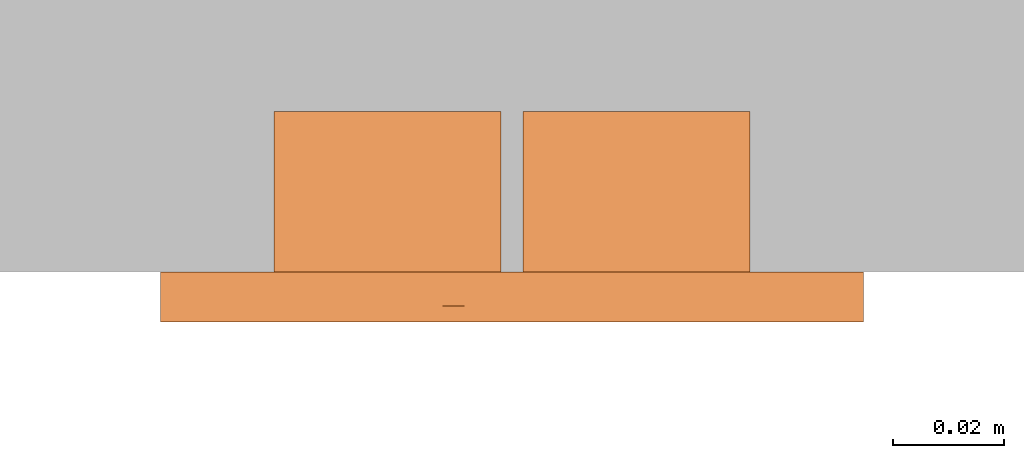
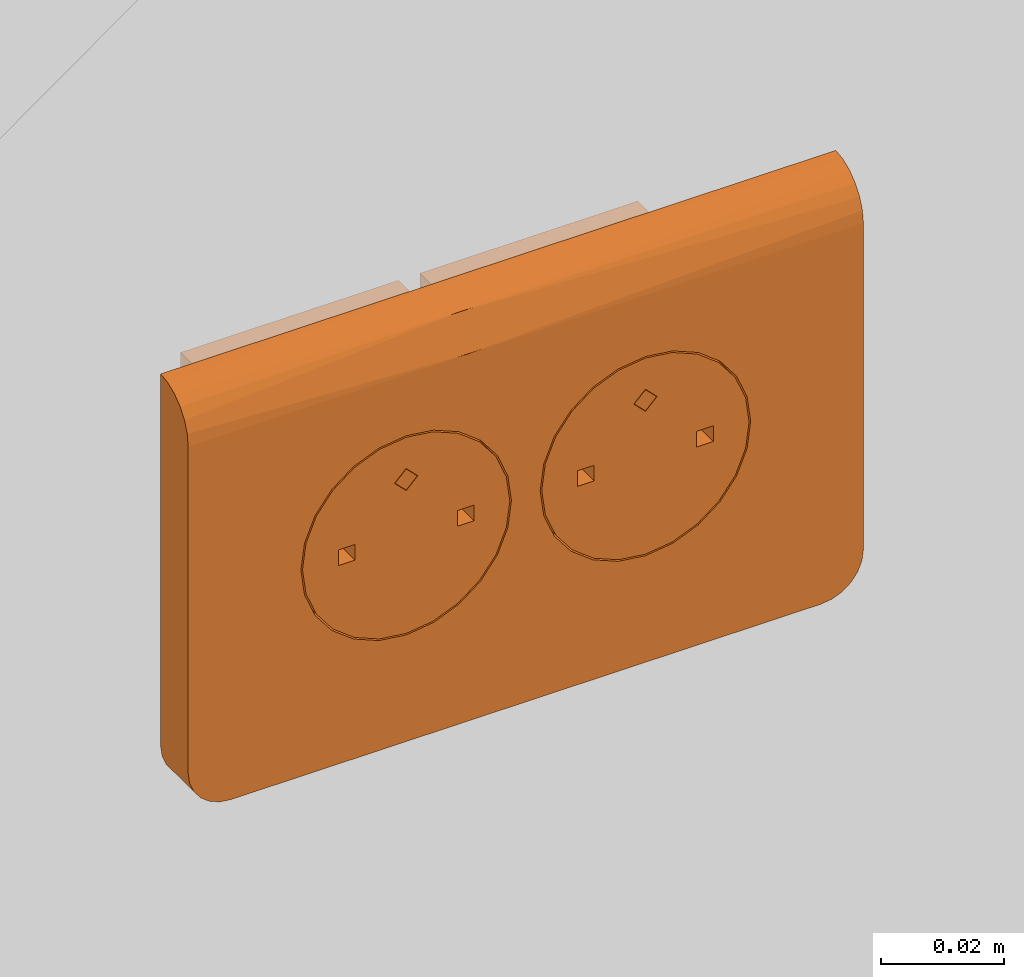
# One storey, part 112 of 197: 1 proxy.
"""IFC2X3 building model written with IfcOpenShell, lengths in metres."""

from ifc_helpers import new_model, entity, si_unit, converted_unit, direction, frame, origin, place, context, subcontext, project, spatial, faceted_brep, source, transform, mapped, material, material_list, type_object, type_shapes, element, save


model = new_model("IFC2X3")

# Units and contexts
model_context = context("Model", 3, precision=1e-05, world=origin(), true_north=direction((6.123031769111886e-17, 1.0)))
body_context = subcontext(model_context, "Body", "Model", "MODEL_VIEW")
ifc_project = project(units=[si_unit("LENGTHUNIT", "METRE"), converted_unit("PLANEANGLEUNIT", "DEGREE", entity("IfcPlaneAngleMeasure", 0.017453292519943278), si_unit("PLANEANGLEUNIT", "RADIAN"), dimensions=[0, 0, 0, 0, 0, 0, 0]), si_unit("AREAUNIT", "SQUARE_METRE")], contexts=[model_context])

# Site, building, storey
site_placement = place(None, origin())
site = spatial("IfcSite", under=ifc_project, at=site_placement, Name="Default", CompositionType="ELEMENT")
building_placement = place(site_placement, origin())
building = spatial("IfcBuilding", under=site, at=building_placement, CompositionType="ELEMENT")
storey_placement = place(building_placement, origin())
storey = spatial("IfcBuildingStorey", under=building, at=storey_placement, Name="Niveau 0", CompositionType="ELEMENT", Elevation=0.0)

# Proxy
ifc_material_1 = material(Name="BETCE-ENJOLIVEUR PC-BLANC")
ifc_material_2 = material(Name="<Unnamed>")
ifc_material_3 = material(Name="BETCE-PCN-BLANC")
ifc_material_list = material_list([ifc_material_1, ifc_material_2, ifc_material_3])
building_element_proxy_type = type_object("IfcBuildingElementProxyType", Name="Prise double encastré horizontale:PC20A", PredefinedType="NOTDEFINED", material=ifc_material_list)
shared_shape = source(origin(), body_context, "Body", "Brep", [
    faceted_brep([(0.06353437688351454, -0.008993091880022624, -0.032999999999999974), (0.06353437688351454, -0.008993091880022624, 0.031999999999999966), (0.04503437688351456, -0.008993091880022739, -0.022500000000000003), (0.055534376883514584, -0.008993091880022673, -0.04099999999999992), (0.057604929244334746, -0.00899309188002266, -0.04072740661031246), (0.05953437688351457, -0.008993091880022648, -0.03992820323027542), (0.06119123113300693, -0.008993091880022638, -0.03865685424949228), (0.06326178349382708, -0.008993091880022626, -0.03507055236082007), (0.04503437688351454, -0.008993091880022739, 0.0225), (-0.04496562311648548, -0.008993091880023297, 0.022499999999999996), (-0.011090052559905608, -0.008993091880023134, 0.03199999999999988), (-0.06346562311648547, -0.008993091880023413, 0.031999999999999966), (-0.04496562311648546, -0.008993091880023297, -0.022500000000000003), (-0.06346562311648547, -0.008993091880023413, -0.03299999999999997), (-0.055465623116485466, -0.008993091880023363, -0.04099999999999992), (-0.05753617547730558, -0.008993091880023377, -0.040727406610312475), (-0.059465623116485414, -0.00899309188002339, -0.039928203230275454), (-0.06112247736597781, -0.008993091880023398, -0.03865685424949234), (-0.063193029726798, -0.008993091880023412, -0.03507055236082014), (-0.06239382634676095, -0.008993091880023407, -0.036999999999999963), (0.06246258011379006, -0.008993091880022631, -0.036999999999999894), (-0.06346562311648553, 0.0, -0.03299999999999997), (-0.06346562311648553, 0.0, 0.04099999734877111), (-0.04496562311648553, 0.0, 0.022499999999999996), (-0.044965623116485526, 0.0, -0.022500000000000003), (-0.05546562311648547, 0.0, -0.04099999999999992), (-0.057536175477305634, 0.0, -0.040727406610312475), (-0.05946562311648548, 0.0, -0.039928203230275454), (-0.06319302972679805, 0.0, -0.03507055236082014), (0.011158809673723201, 0.0, 0.04099999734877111), (0.06353437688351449, 0.0, 0.04099999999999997), (0.045034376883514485, 0.0, 0.022499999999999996), (0.06353437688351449, 0.0, -0.03299999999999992), (0.045034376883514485, 0.0, -0.022500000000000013), (0.05553437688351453, 0.0, -0.04099999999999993), (0.05760492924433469, 0.0, -0.04072740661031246), (0.05953437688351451, 0.0, -0.03992820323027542), (0.06326178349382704, 0.0, -0.03507055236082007), (0.061191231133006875, 0.0, -0.03865685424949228), (0.062462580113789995, 0.0, -0.036999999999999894), (-0.06112247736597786, 0.0, -0.03865685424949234), (-0.06239382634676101, 0.0, -0.036999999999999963), (0.0635343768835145, -0.0023280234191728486, 0.040691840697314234), (0.06353437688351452, -0.004497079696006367, 0.039791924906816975), (0.06353437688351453, -0.0063594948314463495, 0.03836151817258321), (0.06353437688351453, -0.0077884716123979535, 0.036498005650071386), (0.06353437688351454, -0.008686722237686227, 0.03432825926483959), (-0.0634656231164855, -0.002328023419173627, 0.040691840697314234), (-0.06346562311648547, -0.008686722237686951, 0.03432825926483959), (-0.06346562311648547, -0.0077884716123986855, 0.03649800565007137), (-0.06346562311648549, -0.006359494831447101, 0.038361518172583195), (-0.0634656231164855, -0.004497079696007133, 0.039791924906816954), (-0.010842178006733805, -0.006115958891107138, 0.03859624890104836)], [[[0, 1, 2]], [[3, 0, 2]], [[0, 3, 4]], [[0, 4, 5]], [[5, 6, 0]], [[7, 0, 6]], [[2, 1, 8]], [[1, 9, 8]], [[9, 1, 10]], [[9, 10, 11]], [[12, 9, 11]], [[13, 12, 11]], [[14, 12, 13]], [[14, 13, 15]], [[16, 15, 13]], [[13, 17, 16]], [[17, 13, 18]], [[17, 18, 19]], [[12, 14, 3]], [[2, 12, 3]], [[20, 7, 6]], [[21, 22, 23]], [[24, 21, 23]], [[25, 21, 24]], [[21, 25, 26]], [[21, 26, 27]], [[28, 21, 27]], [[23, 22, 29]], [[23, 29, 30]], [[31, 23, 30]], [[32, 31, 30]], [[33, 31, 32]], [[34, 33, 32]], [[34, 32, 35]], [[36, 35, 32]], [[36, 32, 37]], [[37, 38, 36]], [[38, 37, 39]], [[33, 34, 25]], [[24, 33, 25]], [[27, 40, 28]], [[41, 28, 40]], [[1, 0, 32, 30, 42, 43, 44, 45, 46]], [[37, 32, 0, 7]], [[39, 37, 7, 20]], [[38, 39, 20, 6]], [[36, 38, 6, 5]], [[35, 36, 5, 4]], [[34, 35, 4, 3]], [[25, 34, 3, 14]], [[26, 25, 14, 15]], [[27, 26, 15, 16]], [[40, 27, 16, 17]], [[41, 40, 17, 19]], [[28, 41, 19, 18]], [[21, 28, 18, 13]], [[47, 22, 21, 13, 11, 48, 49, 50, 51]], [[24, 23, 9, 12]], [[33, 24, 12, 2]], [[31, 33, 2, 8]], [[23, 31, 8, 9]], [[52, 10, 45]], [[48, 11, 10]], [[1, 46, 10]], [[44, 52, 45]], [[46, 45, 10]], [[51, 52, 47]], [[49, 48, 10]], [[29, 52, 43]], [[49, 52, 50]], [[42, 30, 29]], [[29, 22, 47]], [[49, 10, 52]], [[29, 43, 42]], [[44, 43, 52]], [[52, 51, 50]], [[52, 29, 47]]]),
    faceted_brep([(0.022534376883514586, -0.00899309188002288, 0.013200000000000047), (0.020434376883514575, -0.008993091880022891, 0.011100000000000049), (0.022534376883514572, -0.00899309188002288, 0.00900000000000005), (0.024634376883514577, -0.008993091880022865, 0.011100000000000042), (0.02463437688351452, 0.0, 0.011100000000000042), (0.022534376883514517, 0.0, 0.00900000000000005), (0.02043437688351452, 0.0, 0.011100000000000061), (0.02253437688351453, 0.0, 0.013200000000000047)], [[[0, 1, 2, 3]], [[4, 5, 6, 7]], [[3, 4, 7, 0]], [[7, 6, 1, 0]], [[1, 6, 5, 2]], [[5, 4, 3, 2]]]),
    faceted_brep([(0.002034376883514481, 6.908119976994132e-06, 0.0205), (0.002034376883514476, 6.908119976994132e-06, -0.020500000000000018), (0.04303437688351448, 6.908119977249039e-06, -0.020500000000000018), (0.04303437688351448, 6.908119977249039e-06, 0.0205), (0.0020343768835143, 0.029006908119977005, 0.0205), (0.0430343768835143, 0.02900690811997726, 0.0205), (0.043034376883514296, 0.02900690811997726, -0.020500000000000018), (0.0020343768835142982, 0.029006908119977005, -0.020500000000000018)], [[[0, 1, 2, 3]], [[4, 5, 6, 7]], [[1, 0, 4, 7]], [[2, 1, 7, 6]], [[3, 2, 6, 5]], [[0, 3, 5, 4]]]),
    faceted_brep([(3.437688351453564e-05, -0.00899309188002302, 0.022499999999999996), (0.012634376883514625, -0.00899309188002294, 0.017147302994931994), (0.017409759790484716, -0.00899309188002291, 0.01912533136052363), (0.00853366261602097, -0.008993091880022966, 0.014000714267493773), (0.022534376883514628, -0.00899309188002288, 0.01980000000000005), (0.0053870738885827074, -0.008993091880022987, 0.009900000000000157), (0.0034090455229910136, -0.008993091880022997, 0.005124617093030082), (0.0027343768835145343, -0.008993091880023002, 0.0), (3.437688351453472e-05, -0.00899309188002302, -0.022500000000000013), (0.04503437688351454, -0.008993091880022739, 0.022499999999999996), (0.0034090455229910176, -0.008993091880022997, -0.0051246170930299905), (0.005387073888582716, -0.008993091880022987, -0.009900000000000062), (0.008533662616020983, -0.008993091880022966, -0.014000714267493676), (0.01263437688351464, -0.00899309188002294, -0.01714730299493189), (0.017409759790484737, -0.00899309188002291, -0.019125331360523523), (0.022534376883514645, -0.00899309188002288, -0.019799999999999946), (0.04503437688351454, -0.008993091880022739, -0.022500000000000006), (0.027658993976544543, -0.008993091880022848, -0.01912533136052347), (0.032434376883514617, -0.008993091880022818, -0.01714730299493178), (0.03653509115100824, -0.00899309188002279, -0.014000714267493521), (0.039681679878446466, -0.008993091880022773, -0.00989999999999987), (0.04165970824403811, -0.00899309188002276, -0.0051246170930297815), (0.04233437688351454, -0.008993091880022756, 0.0), (0.027658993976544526, -0.008993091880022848, 0.01912533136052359), (0.0324343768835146, -0.008993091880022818, 0.017147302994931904), (0.036535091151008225, -0.00899309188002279, 0.014000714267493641), (0.03968167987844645, -0.008993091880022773, 0.009899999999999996), (0.0416597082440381, -0.00899309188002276, 0.005124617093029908), (3.43768835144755e-05, 0.0, -0.022500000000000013), (0.012634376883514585, 0.0, -0.01714730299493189), (0.01740975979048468, 0.0, -0.019125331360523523), (0.008533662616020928, 0.0, -0.014000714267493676), (0.02253437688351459, 0.0, -0.019799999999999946), (0.0053870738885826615, 0.0, -0.009900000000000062), (0.003409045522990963, 0.0, -0.0051246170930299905), (0.002734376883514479, 0.0, 0.0), (3.437688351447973e-05, 0.0, 0.022499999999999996), (0.045034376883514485, 0.0, -0.022500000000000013), (0.0034090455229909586, 0.0, 0.005124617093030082), (0.005387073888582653, 0.0, 0.009900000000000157), (0.008533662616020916, 0.0, 0.014000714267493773), (0.01263437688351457, 0.0, 0.017147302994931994), (0.01740975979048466, 0.0, 0.01912533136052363), (0.022534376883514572, 0.0, 0.01980000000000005), (0.045034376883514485, 0.0, 0.022499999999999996), (0.02765899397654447, 0.0, 0.01912533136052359), (0.03243437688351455, 0.0, 0.017147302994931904), (0.03653509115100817, 0.0, 0.014000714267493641), (0.039681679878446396, 0.0, 0.009899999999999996), (0.04165970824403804, 0.0, 0.005124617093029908), (0.04233437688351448, 0.0, 0.0), (0.027658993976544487, 0.0, -0.01912533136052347), (0.03243437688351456, 0.0, -0.01714730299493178), (0.036535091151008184, 0.0, -0.014000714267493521), (0.0396816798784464, 0.0, -0.00989999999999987), (0.04165970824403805, 0.0, -0.0051246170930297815)], [[[0, 1, 2]], [[1, 0, 3]], [[0, 2, 4]], [[5, 3, 0]], [[6, 5, 0]], [[7, 6, 0]], [[0, 8, 7]], [[4, 9, 0]], [[10, 7, 8]], [[11, 10, 8]], [[12, 11, 8]], [[8, 13, 12]], [[13, 8, 14]], [[15, 14, 8]], [[8, 16, 15]], [[17, 15, 16]], [[18, 17, 16]], [[16, 19, 18]], [[19, 16, 20]], [[21, 20, 16]], [[22, 21, 16]], [[22, 16, 9]], [[9, 4, 23]], [[9, 23, 24]], [[24, 25, 9]], [[25, 26, 9]], [[26, 27, 9]], [[9, 27, 22]], [[28, 29, 30]], [[29, 28, 31]], [[28, 30, 32]], [[33, 31, 28]], [[34, 33, 28]], [[35, 34, 28]], [[28, 36, 35]], [[32, 37, 28]], [[38, 35, 36]], [[39, 38, 36]], [[40, 39, 36]], [[36, 41, 40]], [[41, 36, 42]], [[43, 42, 36]], [[36, 44, 43]], [[45, 43, 44]], [[46, 45, 44]], [[44, 47, 46]], [[47, 44, 48]], [[49, 48, 44]], [[50, 49, 44]], [[50, 44, 37]], [[37, 32, 51]], [[37, 51, 52]], [[52, 53, 37]], [[53, 54, 37]], [[54, 55, 37]], [[37, 55, 50]], [[36, 28, 8, 0]], [[44, 36, 0, 9]], [[37, 44, 9, 16]], [[28, 37, 16, 8]], [[50, 22, 27, 49]], [[49, 27, 26, 48]], [[46, 47, 25, 24]], [[25, 47, 48, 26]], [[45, 46, 24, 23]], [[45, 23, 4, 43]], [[43, 4, 2, 42]], [[42, 2, 1, 41]], [[39, 40, 3, 5]], [[3, 40, 41, 1]], [[38, 39, 5, 6]], [[38, 6, 7, 35]], [[35, 7, 10, 34]], [[34, 10, 11, 33]], [[29, 31, 12, 13]], [[12, 31, 33, 11]], [[30, 29, 13, 14]], [[30, 14, 15, 32]], [[32, 15, 17, 51]], [[51, 17, 18, 52]], [[54, 53, 19, 20]], [[19, 53, 52, 18]], [[55, 54, 20, 21]], [[55, 21, 22, 50]]]),
    faceted_brep([(0.0128900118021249, 0.0, -0.001555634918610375), (0.012784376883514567, 0.0, -0.01688749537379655), (0.008745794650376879, 0.0, -0.013788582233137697), (0.017487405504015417, 0.0, -0.0188355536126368), (0.005646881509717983, 0.0, -0.009750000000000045), (0.02253437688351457, 0.0, -0.019499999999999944), (0.0097787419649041, 0.0, -0.0015556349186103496), (0.032178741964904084, 0.0, -0.0015556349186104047), (0.02253437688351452, 0.0, 0.00890000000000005), (0.012890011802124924, 0.0, 0.001555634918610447), (0.020334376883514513, 0.0, 0.011100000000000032), (0.008745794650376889, 0.0, 0.013788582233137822), (0.005646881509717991, 0.0, 0.00975000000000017), (0.00977874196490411, 0.0, 0.0015556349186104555), (0.0030343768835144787, 0.0, 0.0), (0.003698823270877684, 0.0, 0.0050469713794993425), (0.0036988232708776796, 0.0, -0.005046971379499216), (0.012784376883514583, 0.0, 0.016887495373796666), (0.01748740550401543, 0.0, 0.018835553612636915), (0.022534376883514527, 0.0, 0.013300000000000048), (0.022534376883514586, 0.0, 0.019500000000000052), (0.027581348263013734, 0.0, 0.018835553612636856), (0.02473437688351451, 0.0, 0.01110000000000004), (0.032284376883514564, 0.0, 0.01688749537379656), (0.03632295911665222, 0.0, 0.01378858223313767), (0.03217874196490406, 0.0, 0.0015556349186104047), (0.03942187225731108, 0.0, 0.009749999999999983), (0.03529001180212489, 0.0, 0.0015556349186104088), (0.04136993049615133, 0.0, 0.005046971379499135), (0.04203437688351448, 0.0, 0.0), (0.03529001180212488, 0.0, -0.0015556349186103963), (0.04136993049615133, 0.0, -0.005046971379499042), (0.03942187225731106, 0.0, -0.009749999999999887), (0.03632295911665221, 0.0, -0.01378858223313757), (0.03228437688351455, 0.0, -0.01688749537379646), (0.027581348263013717, 0.0, -0.018835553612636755), (0.02033437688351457, -0.008993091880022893, 0.011100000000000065), (0.017487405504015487, -0.00899309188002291, 0.018835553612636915), (0.012784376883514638, -0.00899309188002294, 0.016887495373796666), (0.02253437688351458, -0.00899309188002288, 0.013300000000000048), (0.008745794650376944, -0.008993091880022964, 0.013788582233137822), (0.012890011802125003, -0.008993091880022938, 0.0015556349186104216), (0.022534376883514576, -0.00899309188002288, 0.00890000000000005), (0.022534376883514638, -0.00899309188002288, 0.019500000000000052), (0.027581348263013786, -0.008993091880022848, 0.018835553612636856), (0.024734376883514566, -0.008993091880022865, 0.011100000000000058), (0.03228437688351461, -0.008993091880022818, 0.01688749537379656), (0.03632295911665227, -0.008993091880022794, 0.01378858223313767), (0.03217874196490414, -0.008993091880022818, 0.0015556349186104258), (0.03942187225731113, -0.008993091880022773, 0.009749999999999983), (0.005646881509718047, -0.008993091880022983, 0.00975000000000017), (0.00977874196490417, -0.008993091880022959, 0.0015556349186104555), (0.003698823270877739, -0.008993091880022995, 0.0050469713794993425), (0.0030343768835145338, -0.008993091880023, 0.0), (0.009778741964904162, -0.008993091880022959, -0.001555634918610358), (0.0036988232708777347, -0.008993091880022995, -0.005046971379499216), (0.005646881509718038, -0.008993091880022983, -0.009750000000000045), (0.012890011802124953, -0.008993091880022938, -0.0015556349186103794), (0.008745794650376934, -0.008993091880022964, -0.013788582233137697), (0.012784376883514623, -0.00899309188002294, -0.01688749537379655), (0.01748740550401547, -0.00899309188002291, -0.0188355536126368), (0.022534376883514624, -0.00899309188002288, -0.019499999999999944), (0.03217874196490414, -0.008993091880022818, -0.0015556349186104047), (0.02758134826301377, -0.008993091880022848, -0.018835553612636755), (0.0322843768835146, -0.008993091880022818, -0.01688749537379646), (0.03632295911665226, -0.008993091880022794, -0.01378858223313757), (0.03942187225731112, -0.008993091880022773, -0.009749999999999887), (0.035290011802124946, -0.0089930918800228, -0.0015556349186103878), (0.041369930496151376, -0.008993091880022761, -0.005046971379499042), (0.04203437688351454, -0.008993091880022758, 0.0), (0.035290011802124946, -0.0089930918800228, 0.0015556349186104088), (0.04136993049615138, -0.008993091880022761, 0.005046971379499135)], [[[0, 1, 2]], [[0, 3, 1]], [[2, 4, 0]], [[3, 0, 5]], [[0, 4, 6]], [[5, 0, 7]], [[8, 7, 0]], [[8, 0, 9]], [[8, 9, 10]], [[10, 9, 11]], [[12, 11, 9]], [[12, 9, 13]], [[6, 14, 13]], [[15, 12, 13]], [[15, 13, 14]], [[16, 14, 6]], [[11, 17, 10]], [[18, 10, 17]], [[10, 18, 19]], [[19, 18, 20]], [[21, 19, 20]], [[19, 21, 22]], [[23, 22, 21]], [[22, 23, 24]], [[22, 24, 25]], [[25, 24, 26]], [[27, 25, 26]], [[26, 28, 27]], [[27, 28, 29]], [[29, 30, 27]], [[31, 30, 29]], [[30, 31, 32]], [[7, 30, 32]], [[7, 32, 33]], [[7, 33, 34]], [[7, 34, 35]], [[35, 5, 7]], [[8, 25, 7]], [[25, 8, 22]], [[6, 4, 16]], [[36, 37, 38]], [[36, 39, 37]], [[38, 40, 36]], [[41, 36, 40]], [[42, 36, 41]], [[37, 39, 43]], [[43, 39, 44]], [[39, 45, 44]], [[45, 46, 44]], [[45, 47, 46]], [[48, 45, 42]], [[48, 47, 45]], [[48, 49, 47]], [[50, 41, 40]], [[50, 51, 41]], [[50, 52, 51]], [[52, 53, 51]], [[54, 51, 53]], [[54, 53, 55]], [[56, 54, 55]], [[54, 56, 57]], [[58, 57, 56]], [[57, 58, 59]], [[59, 60, 57]], [[61, 57, 60]], [[62, 57, 61]], [[61, 63, 62]], [[63, 64, 62]], [[62, 64, 65]], [[65, 66, 62]], [[67, 62, 66]], [[68, 67, 66]], [[68, 69, 67]], [[67, 69, 70]], [[71, 70, 69]], [[49, 70, 71]], [[70, 49, 48]], [[48, 42, 62]], [[42, 57, 62]], [[42, 41, 57]], [[68, 31, 29, 69]], [[66, 32, 31, 68]], [[33, 65, 64, 34]], [[66, 65, 33, 32]], [[34, 64, 63, 35]], [[35, 63, 61, 5]], [[59, 1, 3, 60]], [[58, 2, 1, 59]], [[4, 56, 55, 16]], [[58, 56, 4, 2]], [[16, 55, 53, 14]], [[3, 5, 61, 60]], [[52, 15, 14, 53]], [[50, 12, 15, 52]], [[11, 40, 38, 17]], [[50, 40, 11, 12]], [[17, 38, 37, 18]], [[18, 37, 43, 20]], [[46, 23, 21, 44]], [[47, 24, 23, 46]], [[26, 49, 71, 28]], [[47, 49, 26, 24]], [[28, 71, 69, 29]], [[21, 20, 43, 44]], [[39, 19, 22, 45]], [[36, 10, 19, 39]], [[42, 8, 10, 36]], [[45, 22, 8, 42]], [[70, 27, 30, 67]], [[48, 25, 27, 70]], [[51, 13, 9, 41]], [[62, 7, 25, 48]], [[67, 30, 7, 62]], [[57, 0, 6, 54]], [[41, 9, 0, 57]], [[54, 6, 13, 51]]]),
    faceted_brep([(-0.022465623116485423, -0.00899309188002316, 0.013200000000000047), (-0.02456562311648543, -0.008993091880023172, 0.011100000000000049), (-0.022465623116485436, -0.00899309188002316, 0.00900000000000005), (-0.020365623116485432, -0.008993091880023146, 0.011100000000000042), (-0.020365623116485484, 0.0, 0.011100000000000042), (-0.02246562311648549, 0.0, 0.00900000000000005), (-0.024565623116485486, 0.0, 0.011100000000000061), (-0.022465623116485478, 0.0, 0.013200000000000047)], [[[0, 1, 2, 3]], [[4, 5, 6, 7]], [[3, 4, 7, 0]], [[7, 6, 1, 0]], [[1, 6, 5, 2]], [[5, 4, 3, 2]]]),
    faceted_brep([(-0.042965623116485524, 0.0, 0.0205), (-0.042965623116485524, 0.0, -0.020500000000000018), (-0.0019656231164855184, 0.0, -0.020500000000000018), (-0.0019656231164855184, 0.0, 0.0205), (-0.0429656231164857, 0.02900690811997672, 0.0205), (-0.0019656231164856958, 0.029006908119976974, 0.0205), (-0.0019656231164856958, 0.029006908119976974, -0.020500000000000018), (-0.0429656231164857, 0.02900690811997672, -0.020500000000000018)], [[[0, 1, 2, 3]], [[4, 5, 6, 7]], [[1, 0, 4, 7]], [[2, 1, 7, 6]], [[3, 2, 6, 5]], [[0, 3, 5, 4]]]),
    faceted_brep([(-0.04496562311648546, -0.008993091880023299, 0.022499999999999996), (-0.03236562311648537, -0.008993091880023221, 0.017147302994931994), (-0.02759024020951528, -0.008993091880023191, 0.01912533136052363), (-0.036466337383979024, -0.008993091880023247, 0.014000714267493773), (-0.02246562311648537, -0.00899309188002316, 0.01980000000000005), (-0.03961292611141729, -0.008993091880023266, 0.009900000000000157), (-0.04159095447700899, -0.008993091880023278, 0.005124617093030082), (-0.04226562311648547, -0.008993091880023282, 0.0), (-0.04496562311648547, -0.008993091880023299, -0.022500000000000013), (3.437688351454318e-05, -0.00899309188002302, 0.022499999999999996), (-0.04159095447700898, -0.008993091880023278, -0.0051246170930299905), (-0.03961292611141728, -0.008993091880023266, -0.009900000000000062), (-0.03646633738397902, -0.008993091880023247, -0.014000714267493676), (-0.03236562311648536, -0.008993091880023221, -0.01714730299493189), (-0.02759024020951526, -0.008993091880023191, -0.019125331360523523), (-0.022465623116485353, -0.00899309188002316, -0.019799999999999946), (3.437688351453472e-05, -0.00899309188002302, -0.022500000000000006), (-0.017341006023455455, -0.008993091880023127, -0.01912533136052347), (-0.012565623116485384, -0.008993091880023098, -0.01714730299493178), (-0.008464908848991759, -0.008993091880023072, -0.014000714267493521), (-0.0053183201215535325, -0.008993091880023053, -0.00989999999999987), (-0.003340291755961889, -0.00899309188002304, -0.0051246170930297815), (-0.002665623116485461, -0.008993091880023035, 0.0), (-0.017341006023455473, -0.008993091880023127, 0.01912533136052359), (-0.012565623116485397, -0.008993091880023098, 0.017147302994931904), (-0.008464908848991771, -0.008993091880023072, 0.014000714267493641), (-0.005318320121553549, -0.008993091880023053, 0.009899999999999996), (-0.0033402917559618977, -0.00899309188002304, 0.005124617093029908), (-0.04496562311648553, 0.0, -0.022500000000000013), (-0.032365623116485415, 0.0, -0.01714730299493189), (-0.027590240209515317, 0.0, -0.019125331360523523), (-0.036466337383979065, 0.0, -0.014000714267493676), (-0.02246562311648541, 0.0, -0.019799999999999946), (-0.03961292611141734, 0.0, -0.009900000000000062), (-0.04159095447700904, 0.0, -0.0051246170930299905), (-0.04226562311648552, 0.0, 0.0), (-0.044965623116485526, 0.0, 0.022499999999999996), (3.43768835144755e-05, 0.0, -0.022500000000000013), (-0.04159095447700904, 0.0, 0.005124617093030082), (-0.03961292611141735, 0.0, 0.009900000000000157), (-0.036466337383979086, 0.0, 0.014000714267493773), (-0.03236562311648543, 0.0, 0.017147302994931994), (-0.027590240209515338, 0.0, 0.01912533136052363), (-0.022465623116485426, 0.0, 0.01980000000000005), (3.437688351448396e-05, 0.0, 0.022499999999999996), (-0.01734100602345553, 0.0, 0.01912533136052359), (-0.012565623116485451, 0.0, 0.017147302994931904), (-0.008464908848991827, 0.0, 0.014000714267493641), (-0.0053183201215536, 0.0, 0.009899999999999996), (-0.0033402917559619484, 0.0, 0.005124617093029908), (-0.00266562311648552, 0.0, 0.0), (-0.01734100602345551, 0.0, -0.01912533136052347), (-0.012565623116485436, 0.0, -0.01714730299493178), (-0.008464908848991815, 0.0, -0.014000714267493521), (-0.0053183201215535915, 0.0, -0.00989999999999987), (-0.0033402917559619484, 0.0, -0.0051246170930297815)], [[[0, 1, 2]], [[1, 0, 3]], [[0, 2, 4]], [[5, 3, 0]], [[6, 5, 0]], [[7, 6, 0]], [[0, 8, 7]], [[4, 9, 0]], [[10, 7, 8]], [[11, 10, 8]], [[12, 11, 8]], [[8, 13, 12]], [[13, 8, 14]], [[15, 14, 8]], [[8, 16, 15]], [[17, 15, 16]], [[18, 17, 16]], [[16, 19, 18]], [[19, 16, 20]], [[21, 20, 16]], [[22, 21, 16]], [[22, 16, 9]], [[9, 4, 23]], [[9, 23, 24]], [[24, 25, 9]], [[25, 26, 9]], [[26, 27, 9]], [[9, 27, 22]], [[28, 29, 30]], [[29, 28, 31]], [[28, 30, 32]], [[33, 31, 28]], [[34, 33, 28]], [[35, 34, 28]], [[28, 36, 35]], [[32, 37, 28]], [[38, 35, 36]], [[39, 38, 36]], [[40, 39, 36]], [[36, 41, 40]], [[41, 36, 42]], [[43, 42, 36]], [[36, 44, 43]], [[45, 43, 44]], [[46, 45, 44]], [[44, 47, 46]], [[47, 44, 48]], [[49, 48, 44]], [[50, 49, 44]], [[50, 44, 37]], [[37, 32, 51]], [[37, 51, 52]], [[52, 53, 37]], [[53, 54, 37]], [[54, 55, 37]], [[37, 55, 50]], [[36, 28, 8, 0]], [[44, 36, 0, 9]], [[37, 44, 9, 16]], [[28, 37, 16, 8]], [[50, 22, 27, 49]], [[49, 27, 26, 48]], [[46, 47, 25, 24]], [[25, 47, 48, 26]], [[45, 46, 24, 23]], [[45, 23, 4, 43]], [[43, 4, 2, 42]], [[42, 2, 1, 41]], [[39, 40, 3, 5]], [[3, 40, 41, 1]], [[38, 39, 5, 6]], [[38, 6, 7, 35]], [[35, 7, 10, 34]], [[34, 10, 11, 33]], [[29, 31, 12, 13]], [[12, 31, 33, 11]], [[30, 29, 13, 14]], [[30, 14, 15, 32]], [[32, 15, 17, 51]], [[51, 17, 18, 52]], [[54, 53, 19, 20]], [[19, 53, 52, 18]], [[55, 54, 20, 21]], [[55, 21, 22, 50]]]),
    faceted_brep([(-0.03210998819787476, 0.0, -0.0015556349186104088), (-0.03221562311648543, 0.0, -0.01688749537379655), (-0.03625420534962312, 0.0, -0.013788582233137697), (-0.027512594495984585, 0.0, -0.0188355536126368), (-0.039353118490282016, 0.0, -0.009750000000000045), (-0.02246562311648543, 0.0, -0.019499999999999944), (-0.03522125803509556, 0.0, -0.0015556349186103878), (-0.012821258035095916, 0.0, -0.0015556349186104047), (-0.022465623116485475, 0.0, 0.00890000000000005), (-0.03210998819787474, 0.0, 0.0015556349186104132), (-0.024665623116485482, 0.0, 0.011100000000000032), (-0.03625420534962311, 0.0, 0.013788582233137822), (-0.03935311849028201, 0.0, 0.00975000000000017), (-0.03522125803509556, 0.0, 0.0015556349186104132), (-0.04196562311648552, 0.0, 0.0), (-0.04130117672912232, 0.0, 0.0050469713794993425), (-0.04130117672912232, 0.0, -0.005046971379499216), (-0.03221562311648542, 0.0, 0.016887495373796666), (-0.027512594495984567, 0.0, 0.018835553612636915), (-0.022465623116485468, 0.0, 0.013300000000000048), (-0.022465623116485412, 0.0, 0.019500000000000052), (-0.017418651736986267, 0.0, 0.018835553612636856), (-0.02026562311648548, 0.0, 0.01110000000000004), (-0.012715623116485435, 0.0, 0.01688749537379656), (-0.00867704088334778, 0.0, 0.01378858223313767), (-0.012821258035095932, 0.0, 0.0015556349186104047), (-0.005578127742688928, 0.0, 0.009749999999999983), (-0.009709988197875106, 0.0, 0.0015556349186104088), (-0.0036300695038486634, 0.0, 0.005046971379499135), (-0.0029656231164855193, 0.0, 0.0), (-0.009709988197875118, 0.0, -0.0015556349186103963), (-0.0036300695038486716, 0.0, -0.005046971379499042), (-0.005578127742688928, 0.0, -0.009749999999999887), (-0.00867704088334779, 0.0, -0.01378858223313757), (-0.012715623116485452, 0.0, -0.01688749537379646), (-0.01741865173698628, 0.0, -0.018835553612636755), (-0.024665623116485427, -0.008993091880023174, 0.011100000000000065), (-0.02751259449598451, -0.00899309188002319, 0.018835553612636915), (-0.03221562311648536, -0.00899309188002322, 0.016887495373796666), (-0.022465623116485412, -0.00899309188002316, 0.013300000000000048), (-0.03625420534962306, -0.008993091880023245, 0.013788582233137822), (-0.03210998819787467, -0.00899309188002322, 0.001555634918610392), (-0.02246562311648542, -0.00899309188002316, 0.00890000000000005), (-0.02246562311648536, -0.00899309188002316, 0.019500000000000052), (-0.017418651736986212, -0.008993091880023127, 0.018835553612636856), (-0.02026562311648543, -0.008993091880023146, 0.011100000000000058), (-0.012715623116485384, -0.008993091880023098, 0.01688749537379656), (-0.008677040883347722, -0.008993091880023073, 0.01378858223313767), (-0.012821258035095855, -0.0089930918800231, 0.0015556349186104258), (-0.005578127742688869, -0.008993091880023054, 0.009749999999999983), (-0.039353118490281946, -0.008993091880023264, 0.00975000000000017), (-0.035221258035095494, -0.008993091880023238, 0.0015556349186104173), (-0.04130117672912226, -0.008993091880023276, 0.0050469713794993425), (-0.04196562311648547, -0.00899309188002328, 0.0), (-0.035221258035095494, -0.008993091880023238, -0.001555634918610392), (-0.041301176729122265, -0.008993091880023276, -0.005046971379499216), (-0.03935311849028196, -0.008993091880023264, -0.009750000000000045), (-0.0321099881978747, -0.00899309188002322, -0.0015556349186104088), (-0.036254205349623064, -0.008993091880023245, -0.013788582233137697), (-0.032215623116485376, -0.00899309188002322, -0.01688749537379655), (-0.02751259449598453, -0.00899309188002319, -0.0188355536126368), (-0.022465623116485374, -0.00899309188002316, -0.019499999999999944), (-0.01282125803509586, -0.0089930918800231, -0.0015556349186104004), (-0.01741865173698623, -0.008993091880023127, -0.018835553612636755), (-0.012715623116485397, -0.008993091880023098, -0.01688749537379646), (-0.00867704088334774, -0.008993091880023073, -0.01378858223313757), (-0.005578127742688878, -0.008993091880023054, -0.009749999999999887), (-0.009709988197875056, -0.00899309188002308, -0.0015556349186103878), (-0.003630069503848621, -0.008993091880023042, -0.005046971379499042), (-0.0029656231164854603, -0.008993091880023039, 0.0), (-0.00970998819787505, -0.00899309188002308, 0.0015556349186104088), (-0.0036300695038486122, -0.008993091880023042, 0.005046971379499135)], [[[0, 1, 2]], [[0, 3, 1]], [[2, 4, 0]], [[3, 0, 5]], [[0, 4, 6]], [[5, 0, 7]], [[8, 7, 0]], [[8, 0, 9]], [[8, 9, 10]], [[10, 9, 11]], [[12, 11, 9]], [[12, 9, 13]], [[6, 14, 13]], [[15, 12, 13]], [[15, 13, 14]], [[16, 14, 6]], [[11, 17, 10]], [[18, 10, 17]], [[10, 18, 19]], [[19, 18, 20]], [[21, 19, 20]], [[19, 21, 22]], [[23, 22, 21]], [[22, 23, 24]], [[22, 24, 25]], [[25, 24, 26]], [[27, 25, 26]], [[26, 28, 27]], [[27, 28, 29]], [[29, 30, 27]], [[31, 30, 29]], [[30, 31, 32]], [[7, 30, 32]], [[7, 32, 33]], [[7, 33, 34]], [[7, 34, 35]], [[35, 5, 7]], [[8, 25, 7]], [[25, 8, 22]], [[6, 4, 16]], [[36, 37, 38]], [[36, 39, 37]], [[38, 40, 36]], [[41, 36, 40]], [[42, 36, 41]], [[37, 39, 43]], [[43, 39, 44]], [[39, 45, 44]], [[45, 46, 44]], [[45, 47, 46]], [[48, 45, 42]], [[48, 47, 45]], [[48, 49, 47]], [[50, 41, 40]], [[50, 51, 41]], [[50, 52, 51]], [[52, 53, 51]], [[54, 51, 53]], [[54, 53, 55]], [[56, 54, 55]], [[54, 56, 57]], [[58, 57, 56]], [[57, 58, 59]], [[59, 60, 57]], [[61, 57, 60]], [[62, 57, 61]], [[61, 63, 62]], [[63, 64, 62]], [[62, 64, 65]], [[65, 66, 62]], [[67, 62, 66]], [[68, 67, 66]], [[68, 69, 67]], [[67, 69, 70]], [[71, 70, 69]], [[49, 70, 71]], [[70, 49, 48]], [[48, 42, 62]], [[42, 57, 62]], [[42, 41, 57]], [[68, 31, 29, 69]], [[66, 32, 31, 68]], [[33, 65, 64, 34]], [[66, 65, 33, 32]], [[34, 64, 63, 35]], [[35, 63, 61, 5]], [[59, 1, 3, 60]], [[58, 2, 1, 59]], [[4, 56, 55, 16]], [[58, 56, 4, 2]], [[16, 55, 53, 14]], [[3, 5, 61, 60]], [[52, 15, 14, 53]], [[50, 12, 15, 52]], [[11, 40, 38, 17]], [[50, 40, 11, 12]], [[17, 38, 37, 18]], [[18, 37, 43, 20]], [[46, 23, 21, 44]], [[47, 24, 23, 46]], [[26, 49, 71, 28]], [[47, 49, 26, 24]], [[28, 71, 69, 29]], [[21, 20, 43, 44]], [[39, 19, 22, 45]], [[36, 10, 19, 39]], [[42, 8, 10, 36]], [[45, 22, 8, 42]], [[70, 27, 30, 67]], [[48, 25, 27, 70]], [[51, 13, 9, 41]], [[62, 7, 25, 48]], [[67, 30, 7, 62]], [[57, 0, 6, 54]], [[41, 9, 0, 57]], [[54, 6, 13, 51]]]),
])
type_shapes(building_element_proxy_type, [shared_shape])
proxy_placement = place(storey_placement, frame((-408.47044850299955, 97.32254659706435, 0.49999999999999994)))
element("IfcBuildingElementProxy", 1, at=proxy_placement, inside=storey, type_object=building_element_proxy_type, material=ifc_material_list, Name="Prise double encastré horizontale:PC20A", ObjectType="Prise double encastré horizontale:PC20A", context=body_context, shape_type="MappedRepresentation", body=[
    mapped(shared_shape, transform((0.0, 0.0, 0.0), scale=1.0)),
])

save(model, "model.ifc")
